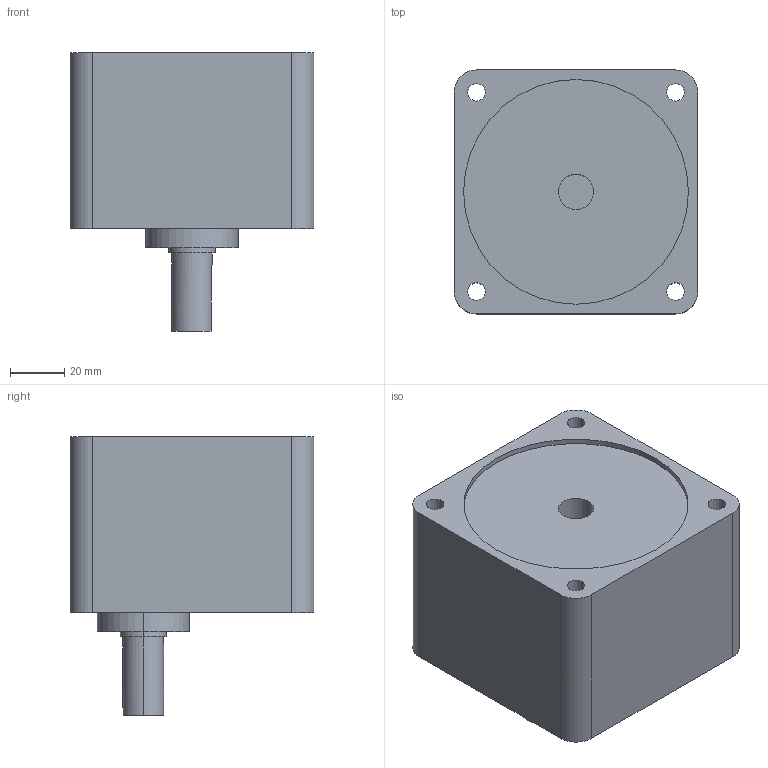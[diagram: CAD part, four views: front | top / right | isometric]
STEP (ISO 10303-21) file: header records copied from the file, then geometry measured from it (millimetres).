
FILE_DESCRIPTION (( 'STEP AP203' ), '1' );
FILE_NAME ('A1898.step', '2024-04-25T09:41:49', ( '' ), ( '' ), 'SwSTEP 2.0', 'SolidWorks 2023', '' );
FILE_SCHEMA (( 'CONFIG_CONTROL_DESIGN' ));
Length unit declared in the file: millimetre
Products named in the file (1): A1898
Bounding box: 90 x 90 x 103 mm (x, y, z)
Volume: 509669.9 mm3; surface area: 47794.7 mm2
Topology: 1 solids, 1 shells, 49 faces, 118 edges, 77 vertices
Faces by surface type: cylinder 29, plane 16, cone 4
Entity records: 1562 total; most frequent: DIRECTION 275, CARTESIAN_POINT 273, ORIENTED_EDGE 232, EDGE_CURVE 116, AXIS2_PLACEMENT_3D 111, VERTEX_POINT 77, EDGE_LOOP 65, CIRCLE 61
